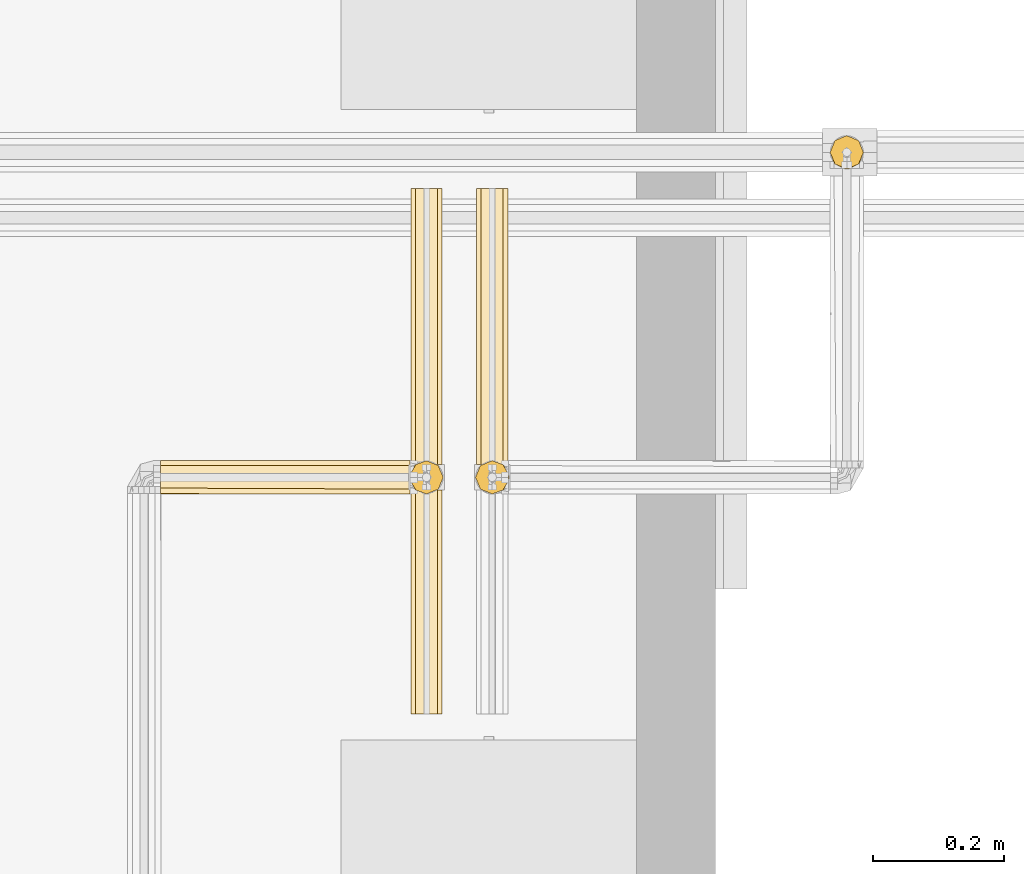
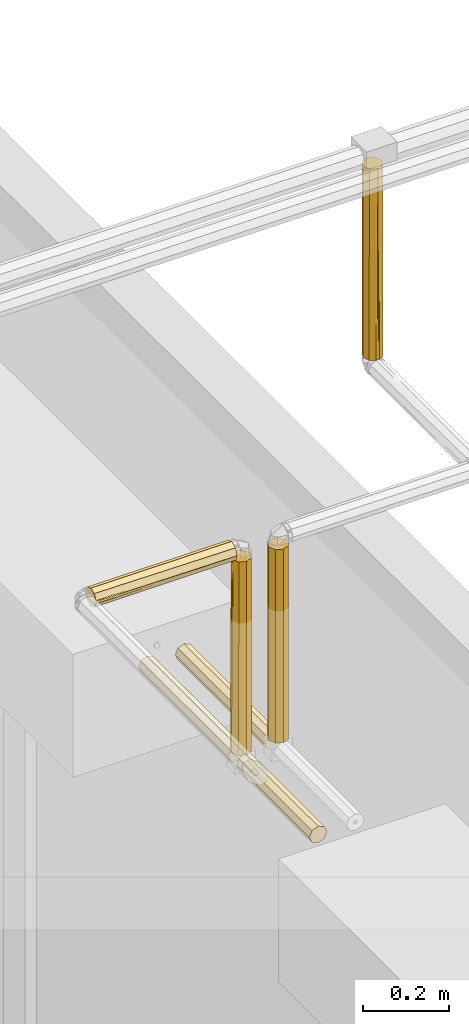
# One storey, part 216 of 652: 7 coverings.
"""IFC2X3 building model written with IfcOpenShell, lengths in millimetres."""

from ifc_helpers import new_model, entity, si_unit, converted_unit, direction, frame, origin, place, context, subcontext, project, spatial, faceted_brep, material, type_object, element, save


model = new_model("IFC2X3")

# Units and contexts
model_context = context("Model", 3, precision=0.01, world=frame((0.0, 0.0, 308426.39999999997)), true_north=direction((6.123233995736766e-17, 1.0)))
plan_context = context("Plan", 3, precision=0.01, world=frame((0.0, 0.0, 308426.39999999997)), true_north=direction((6.123233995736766e-17, 1.0)))
body_context = subcontext(model_context, "Body", "Model", "MODEL_VIEW")
ifc_project = project(units=[si_unit("LENGTHUNIT", "METRE", prefix="MILLI"), si_unit("AREAUNIT", "SQUARE_METRE"), si_unit("VOLUMEUNIT", "CUBIC_METRE"), converted_unit("PLANEANGLEUNIT", "DEGREE", entity("IfcPlaneAngleMeasure", 0.017453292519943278), si_unit("PLANEANGLEUNIT", "RADIAN"), dimensions=[0, 0, 0, 0, 0, 0, 0])], contexts=[model_context, plan_context])

# Site, building, storey
site_placement = place(None, origin())
site = spatial("IfcSite", under=ifc_project, at=site_placement, Name="Default", CompositionType="ELEMENT")
building_placement = place(site_placement, origin())
building = spatial("IfcBuilding", under=site, at=building_placement, CompositionType="ELEMENT")
storey_placement = place(building_placement, frame((0.0, 0.0, 1730.6999999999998)))
storey = spatial("IfcBuildingStorey", under=building, at=storey_placement, Name="EG_Produktion_FFB", CompositionType="ELEMENT", Elevation=1730.6999999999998)

# Coverings
ifc_material = material(Name="Dämmung - Armaflex-Schlauch")
covering_type = type_object("IfcCoveringType", Name="Rohrdämmung außen:Armaflex-Schlauch", PredefinedType="INSULATION")
covering_1_placement = place(storey_placement, frame((50553.37172776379, 67643.05472776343, 3273.0547277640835)))
element("IfcCovering", 1, at=covering_1_placement, inside=storey, type_object=covering_type, material=ifc_material, Name="Rohrdämmung außen:Armaflex-Schlauch", ObjectType="Rohrdämmung außen:Armaflex-Schlauch", PredefinedType="INSULATION", context=body_context, shape_type="Brep", body=[
    faceted_brep([(1.5952722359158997, 10.639444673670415, 46.35512765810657), (1.5952722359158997, 14.715901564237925, 47.840163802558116), (1.5952722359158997, 18.792358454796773, 49.32519994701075), (1.5952722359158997, 22.86881534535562, 50.81023609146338), (1.5952722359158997, 26.94527223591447, 52.29527223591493), (1.5952722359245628, 30.63036043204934, 50.7688587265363), (1.5952722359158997, 35.90785068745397, 48.58285068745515), (1.5952722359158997, 40.38913991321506, 46.726639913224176), (1.5952722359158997, 44.87042913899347, 44.87042913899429), (1.5952722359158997, 46.7266399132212, 40.38913991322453), (1.5952722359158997, 48.582850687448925, 35.90785068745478), (1.5952722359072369, 50.43906146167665, 31.42656146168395), (1.5952722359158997, 52.29527223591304, 26.94527223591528), (1.5952722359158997, 50.43906146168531, 22.46398301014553), (1.5952722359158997, 48.582850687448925, 17.982693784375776), (1.5952722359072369, 46.7266399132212, 13.501404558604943), (1.5952722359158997, 44.87042913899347, 9.020115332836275), (1.5952722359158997, 40.38913991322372, 7.163904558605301), (1.5952722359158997, 35.90785068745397, 5.30769378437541), (1.5952722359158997, 31.42656146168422, 3.4514830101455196), (1.5952722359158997, 26.94527223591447, 1.595272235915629), (1.5952722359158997, 22.86881534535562, 3.080308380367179), (1.5952722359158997, 18.792358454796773, 4.565344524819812), (1.5952722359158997, 14.715901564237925, 6.050380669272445), (1.5952722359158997, 10.639444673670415, 7.5354168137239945), (1.5952722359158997, 6.308858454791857, 15.045383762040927), (1.5952722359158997, 1.9782722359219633, 22.55535071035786), (1.5952722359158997, 1.9782722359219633, 31.335193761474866), (1.5952722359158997, 6.308858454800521, 38.84516070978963), (381.6612722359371, 22.555350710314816, 1.9782722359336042), (381.6612722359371, 31.33519376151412, 1.9782722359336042), (381.6612722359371, 38.845160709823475, 6.308858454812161), (381.6612722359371, 46.35512765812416, 10.639444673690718), (381.6612722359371, 47.95249572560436, 15.024255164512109), (381.6612722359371, 49.549863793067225, 19.4090656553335), (381.6612722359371, 52.29527223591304, 26.94527223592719), (381.6612722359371, 49.242445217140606, 34.31544862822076), (381.66127223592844, 47.05643717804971, 39.59293888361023), (381.6612722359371, 44.87042913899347, 44.8704291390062), (381.6612722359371, 40.38913991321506, 46.72663991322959), (381.6612722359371, 35.90785068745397, 48.58285068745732), (381.6612722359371, 31.42656146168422, 50.43906146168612), (381.6612722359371, 26.94527223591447, 52.295272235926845), (381.6612722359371, 22.463983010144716, 50.43906146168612), (381.6612722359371, 17.982693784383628, 48.58285068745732), (381.6612722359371, 13.501404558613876, 46.72663991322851), (381.6612722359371, 9.020115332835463, 44.8704291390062), (381.6612722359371, 7.1639045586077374, 40.389139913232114), (381.6612722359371, 5.307693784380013, 35.907850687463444), (381.6612722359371, 3.4514830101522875, 31.426561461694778), (381.6612722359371, 1.5952722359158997, 26.94527223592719), (381.6612722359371, 3.0803083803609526, 22.868815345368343), (381.6612722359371, 4.565344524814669, 18.792358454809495), (381.6612722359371, 6.050380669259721, 14.715901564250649), (381.6612722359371, 7.535416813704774, 10.639444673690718), (381.6612722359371, 15.045383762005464, 6.308858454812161), (381.37420375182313, 29.148570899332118, 1.6912037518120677), (381.2782722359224, 26.94527223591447, 1.595272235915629), (381.37420375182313, 24.741973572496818, 1.6912037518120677), (1.9782722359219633, 1.5952722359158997, 26.94527223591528), (1.8823407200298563, 1.691203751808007, 24.741973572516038), (1.8823407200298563, 1.691203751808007, 29.148570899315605)], [[[0, 1, 2, 3, 4, 5, 6, 7, 8, 9, 10, 11, 12, 13, 14, 15, 16, 17, 18, 19, 20, 21, 22, 23, 24, 25, 26, 27, 28]], [[29, 30, 31, 32, 33, 34, 35, 36, 37, 38, 39, 40, 41, 42, 43, 44, 45, 46, 47, 48, 49, 50, 51, 52, 53, 54, 55]], [[34, 33, 14]], [[31, 18, 17, 16]], [[34, 14, 13]], [[13, 12, 35]], [[31, 30, 18]], [[20, 56, 57]], [[35, 34, 13]], [[19, 18, 30]], [[32, 15, 33]], [[31, 16, 32]], [[56, 19, 30]], [[19, 56, 20]], [[15, 32, 16]], [[15, 14, 33]], [[29, 22, 21]], [[58, 21, 20]], [[58, 29, 21]], [[23, 22, 55, 24]], [[24, 55, 54]], [[25, 54, 53, 52]], [[50, 59, 60]], [[26, 52, 51]], [[60, 26, 51]], [[54, 25, 24]], [[55, 22, 29]], [[20, 57, 58]], [[25, 52, 26]], [[60, 51, 50]], [[49, 48, 27]], [[28, 48, 47, 46]], [[1, 44, 2]], [[50, 61, 59]], [[4, 3, 42]], [[2, 43, 3]], [[42, 3, 43]], [[44, 1, 45]], [[45, 1, 0]], [[48, 28, 27]], [[28, 46, 0]], [[61, 49, 27]], [[49, 61, 50]], [[45, 0, 46]], [[43, 2, 44]], [[40, 39, 38, 8, 7, 6, 5, 4, 42, 41]], [[8, 38, 37, 36, 35, 12, 11, 10, 9]], [[27, 26, 60, 59, 61]], [[57, 56, 30, 29, 58]]]),
])
covering_2_placement = place(storey_placement, frame((50934.64222776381, 67309.64924999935, 2674.6422277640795)))
element("IfcCovering", 2, at=covering_2_placement, inside=storey, type_object=covering_type, material=ifc_material, Name="Rohrdämmung außen:Armaflex-Schlauch", ObjectType="Rohrdämmung außen:Armaflex-Schlauch", PredefinedType="INSULATION", context=body_context, shape_type="Brep", body=[
    faceted_brep([(12.755803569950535, 0.0, 6.815178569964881), (16.956459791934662, 0.0, 5.0752097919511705), (21.157116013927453, 0.0, 3.335241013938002), (25.35777223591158, 0.0, 1.5952722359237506), (29.088590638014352, 0.0, 3.1406278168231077), (33.759084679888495, 0.0, 5.0752097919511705), (37.95974090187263, 0.0, 6.815178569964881), (42.160397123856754, 0.0, 8.555147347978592), (43.90036590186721, 0.0, 12.755803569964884), (45.640334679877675, 0.0, 16.956459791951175), (47.3803034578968, 0.0, 21.15711601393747), (49.12027223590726, 0.0, 25.35777223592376), (47.57491665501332, 0.0, 29.088590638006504), (45.640334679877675, 0.0, 33.75908467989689), (43.90036590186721, 0.0, 37.95974090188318), (42.160397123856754, 0.0, 42.16039712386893), (37.95974090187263, 0.0, 43.900365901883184), (33.759084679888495, 0.0, 45.640334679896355), (29.558428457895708, 0.0, 47.38030345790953), (25.35777223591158, 0.0, 49.12027223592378), (21.626953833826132, 0.0, 47.57491665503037), (16.956459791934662, 0.0, 45.640334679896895), (12.755803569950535, 0.0, 43.900365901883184), (8.55514734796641, 0.0, 42.16039712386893), (6.815178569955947, 0.0, 37.95974090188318), (5.075209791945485, 0.0, 33.75908467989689), (3.3352410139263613, 0.0, 29.558428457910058), (1.5952722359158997, 0.0, 25.35777223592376), (3.3352410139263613, 0.0, 21.15711601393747), (5.075209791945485, 0.0, 16.956459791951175), (6.815178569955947, 0.0, 12.755803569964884), (8.55514734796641, 0.0, 8.555147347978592), (1.5952722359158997, 340.701499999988, 25.357772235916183), (4.685983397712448, 340.701499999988, 32.81940904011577), (6.620565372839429, 340.701499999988, 37.489903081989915), (8.55514734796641, 340.701499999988, 42.16039712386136), (12.755803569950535, 340.701499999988, 43.90036590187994), (16.956459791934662, 340.701499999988, 45.64033467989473), (21.157116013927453, 340.701499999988, 47.38030345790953), (25.35777223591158, 340.701499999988, 49.1202722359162), (32.819409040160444, 340.701499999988, 46.02956107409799), (37.489903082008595, 340.701499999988, 44.09497909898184), (42.160397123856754, 340.701499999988, 42.16039712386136), (43.90036590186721, 340.701499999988, 37.959740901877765), (45.640334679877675, 340.701499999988, 33.75908467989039), (47.38030345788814, 340.701499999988, 29.558428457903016), (49.12027223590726, 340.701499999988, 25.357772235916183), (46.029561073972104, 340.701499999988, 17.896135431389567), (44.09497909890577, 340.701499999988, 13.225641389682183), (42.160397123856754, 340.701499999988, 8.55514734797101), (37.95974090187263, 340.701499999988, 6.815178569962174), (33.759084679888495, 340.701499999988, 5.075209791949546), (29.558428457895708, 340.701499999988, 3.3352410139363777), (25.35777223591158, 340.701499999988, 1.5952722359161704), (17.896135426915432, 340.701499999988, 4.685983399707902), (13.22564138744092, 340.701499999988, 6.620565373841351), (8.55514734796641, 340.701499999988, 8.55514734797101), (6.815178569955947, 340.701499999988, 12.755803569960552), (5.075209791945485, 340.701499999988, 16.95645979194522), (3.3352410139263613, 340.701499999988, 21.15711601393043)], [[[0, 1, 2, 3, 4, 5, 6, 7, 8, 9, 10, 11, 12, 13, 14, 15, 16, 17, 18, 19, 20, 21, 22, 23, 24, 25, 26, 27, 28, 29, 30, 31]], [[32, 33, 34, 35, 36, 37, 38, 39, 40, 41, 42, 43, 44, 45, 46, 47, 48, 49, 50, 51, 52, 53, 54, 55, 56, 57, 58, 59]], [[58, 57, 56, 31, 30, 29, 28, 27, 32, 59]], [[54, 53, 3, 2, 1, 0, 31, 56, 55]], [[51, 50, 49, 7, 6, 5, 4, 3, 53, 52]], [[7, 49, 48, 47, 46, 11, 10, 9, 8]], [[44, 43, 42, 15, 14, 13, 12, 11, 46, 45]], [[15, 42, 41, 40, 39, 19, 18, 17, 16]], [[37, 36, 35, 23, 22, 21, 20, 19, 39, 38]], [[23, 35, 34, 33, 32, 27, 26, 25, 24]]]),
])
covering_3_placement = place(storey_placement, frame((51573.05472776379, 68138.05472776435, 3323.371727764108)))
element("IfcCovering", 3, at=covering_3_placement, inside=storey, type_object=covering_type, material=ifc_material, Name="Rohrdämmung außen:Armaflex-Schlauch", ObjectType="Rohrdämmung außen:Armaflex-Schlauch", PredefinedType="INSULATION", context=body_context, shape_type="Brep", body=[
    faceted_brep([(52.29527223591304, 26.94527223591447, 546.6186722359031), (50.16641730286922, 32.0847826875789, 546.6186722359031), (48.582850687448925, 35.90785068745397, 546.6186722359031), (46.7266399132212, 40.38913991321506, 546.6186722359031), (44.87042913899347, 44.87042913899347, 546.6186722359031), (40.38913991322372, 46.7266399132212, 546.6186722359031), (35.90785068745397, 48.582850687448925, 546.6186722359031), (31.42656146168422, 50.43906146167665, 546.6186722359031), (26.94527223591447, 52.29527223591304, 546.6186722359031), (21.805761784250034, 50.16641730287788, 546.6186722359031), (17.982693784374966, 48.582850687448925, 546.6186722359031), (13.501404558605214, 46.7266399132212, 546.6186722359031), (9.020115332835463, 44.87042913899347, 546.6186722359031), (7.163904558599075, 40.38913991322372, 546.6186722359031), (5.30769378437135, 35.90785068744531, 546.6186722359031), (3.4514830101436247, 31.42656146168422, 546.6186722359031), (1.5952722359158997, 26.94527223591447, 546.6186722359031), (3.7241271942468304, 21.805761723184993, 546.6186722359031), (5.307693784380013, 17.982693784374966, 546.6186722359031), (7.1639045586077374, 13.501404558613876, 546.6186722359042), (9.020115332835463, 9.020115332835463, 546.6186722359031), (13.501404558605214, 7.1639045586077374, 546.6186722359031), (17.982693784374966, 5.30769378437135, 546.6186722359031), (22.463983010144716, 3.4514830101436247, 546.6186722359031), (26.94527223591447, 1.5952722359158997, 546.6186722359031), (31.42656146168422, 3.4514830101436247, 546.6186722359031), (35.90785068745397, 5.30769378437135, 546.6186722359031), (40.38913991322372, 7.1639045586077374, 546.6186722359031), (44.87042913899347, 9.020115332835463, 546.6186722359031), (46.7266399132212, 13.501404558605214, 546.6186722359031), (48.582850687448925, 17.982693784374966, 546.6186722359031), (50.43906146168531, 22.463983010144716, 546.6186722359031), (31.335193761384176, 1.9782722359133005, 1.595272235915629), (22.55535071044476, 1.9782722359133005, 1.595272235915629), (15.045383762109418, 6.308858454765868, 1.595272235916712), (7.535416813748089, 10.639444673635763, 1.595272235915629), (5.424232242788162, 16.434692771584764, 1.595272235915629), (3.5097522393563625, 21.689982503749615, 1.595272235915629), (1.5952722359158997, 26.94527223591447, 1.595272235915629), (3.724127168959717, 32.084782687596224, 1.595272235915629), (5.852982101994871, 37.22429313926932, 1.595272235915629), (9.020115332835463, 44.87042913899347, 1.595272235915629), (13.501404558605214, 46.7266399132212, 1.595272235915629), (17.982693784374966, 48.58285068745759, 1.595272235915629), (22.463983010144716, 50.43906146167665, 1.595272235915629), (26.94527223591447, 52.29527223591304, 1.595272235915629), (32.084782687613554, 50.16641730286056, 1.595272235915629), (37.224293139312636, 48.03756236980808, 1.595272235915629), (44.87042913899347, 44.87042913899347, 1.595272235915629), (46.72663991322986, 40.38913991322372, 1.595272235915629), (48.582850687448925, 35.90785068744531, 1.5952722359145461), (50.43906146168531, 31.42656146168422, 1.595272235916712), (52.29527223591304, 26.94527223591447, 1.595272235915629), (50.38079224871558, 21.689982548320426, 1.595272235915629), (49.32519994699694, 18.792358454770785, 1.595272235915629), (47.8401638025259, 14.71590156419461, 1.5952722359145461), (46.355127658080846, 10.639444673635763, 1.595272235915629), (38.845160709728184, 6.308858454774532, 1.595272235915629), (24.74197357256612, 1.691203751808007, 1.8823407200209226), (26.94527223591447, 1.5952722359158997, 1.978272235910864), (29.148570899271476, 1.691203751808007, 1.8823407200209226)], [[[0, 1, 2, 3, 4, 5, 6, 7, 8, 9, 10, 11, 12, 13, 14, 15, 16, 17, 18, 19, 20, 21, 22, 23, 24, 25, 26, 27, 28, 29, 30, 31]], [[32, 33, 34, 35, 36, 37, 38, 39, 40, 41, 42, 43, 44, 45, 46, 47, 48, 49, 50, 51, 52, 53, 54, 55, 56, 57]], [[19, 18, 36]], [[36, 18, 37]], [[37, 18, 17, 16]], [[58, 23, 33]], [[34, 33, 22]], [[36, 35, 19]], [[24, 58, 59]], [[34, 22, 21, 20]], [[23, 22, 33]], [[35, 20, 19]], [[34, 20, 35]], [[37, 16, 38]], [[23, 58, 24]], [[32, 26, 25]], [[55, 54, 30]], [[25, 60, 32]], [[26, 32, 57]], [[55, 30, 29]], [[52, 0, 31]], [[54, 31, 30]], [[29, 56, 55]], [[57, 28, 27, 26]], [[31, 54, 53, 52]], [[60, 24, 59]], [[28, 57, 56]], [[28, 56, 29]], [[24, 60, 25]], [[45, 8, 7, 6, 5, 4, 48, 47, 46]], [[3, 2, 1, 0, 52, 51, 50, 49, 48, 4]], [[38, 16, 15, 14, 13, 12, 41, 40, 39]], [[11, 10, 9, 8, 45, 44, 43, 42, 41, 12]], [[58, 33, 32, 60, 59]]]),
])
covering_4_placement = place(storey_placement, frame((50934.64222776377, 67689.64924999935, 2725.357772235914)))
element("IfcCovering", 4, at=covering_4_placement, inside=storey, type_object=covering_type, material=ifc_material, Name="Rohrdämmung außen:Armaflex-Schlauch", ObjectType="Rohrdämmung außen:Armaflex-Schlauch", PredefinedType="INSULATION", context=body_context, shape_type="Brep", body=[
    faceted_brep([(12.75580356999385, 0.0, -43.900365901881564), (16.956459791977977, 0.0, -45.640334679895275), (21.157116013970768, 0.0, -47.38030345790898), (25.357772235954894, 0.0, -49.12027223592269), (28.384189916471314, 0.0, -47.866688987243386), (33.75908467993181, 0.0, -45.640334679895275), (37.95974090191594, 0.0, -43.900365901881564), (42.16039712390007, 0.0, -42.16039712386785), (43.900365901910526, 0.0, -37.95974090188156), (45.64033467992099, 0.0, -33.75908467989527), (47.380303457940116, 0.0, -29.558428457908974), (49.12027223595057, 0.0, -25.35777223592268), (47.86668898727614, 0.0, -22.331354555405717), (45.64033467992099, 0.0, -16.956459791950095), (43.900365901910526, 0.0, -12.7558035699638), (42.16039712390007, 0.0, -8.555147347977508), (37.95974090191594, 0.0, -6.8151785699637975), (33.75908467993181, 0.0, -5.075209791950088), (29.558428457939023, 0.0, -3.335241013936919), (25.357772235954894, 0.0, -1.5952722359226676), (22.331354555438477, 0.0, -2.848855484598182), (16.956459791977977, 0.0, -5.075209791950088), (12.75580356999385, 0.0, -6.8151785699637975), (8.555147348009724, 0.0, -8.555147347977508), (6.8151785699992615, 0.0, -12.7558035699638), (5.0752097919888, 0.0, -16.956459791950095), (3.335241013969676, 0.0, -21.15711601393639), (1.5952722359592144, 0.0, -25.35777223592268), (3.335241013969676, 0.0, -29.558428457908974), (5.0752097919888, 0.0, -33.75908467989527), (6.8151785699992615, 0.0, -37.95974090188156), (8.555147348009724, 0.0, -42.16039712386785), (1.5952722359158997, 420.0, -25.357772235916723), (4.10243873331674, 420.0, -19.3049368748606), (6.328793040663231, 420.0, -13.930042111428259), (8.55514734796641, 420.0, -8.555147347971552), (12.755803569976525, 420.0, -6.815178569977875), (16.95645979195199, 420.0, -5.075209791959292), (21.157116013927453, 420.0, -3.3352410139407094), (25.35777223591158, 420.0, -1.595272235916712), (31.41060759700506, 420.0, -4.102438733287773), (36.78550236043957, 420.0, -6.328793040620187), (42.160397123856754, 420.0, -8.555147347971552), (43.9003659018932, 420.0, -12.755803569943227), (45.64033467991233, 420.0, -16.956459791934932), (47.380303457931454, 420.0, -21.15711601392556), (49.12027223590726, 420.0, -25.357772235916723), (46.61310573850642, 420.0, -31.410607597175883), (44.38675143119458, 420.0, -36.78550236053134), (42.160397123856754, 420.0, -42.1603971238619), (37.95974090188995, 420.0, -43.90036590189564), (33.759084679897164, 420.0, -45.64033467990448), (29.55842845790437, 420.0, -47.380303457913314), (25.35777223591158, 420.0, -49.12027223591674), (19.304936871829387, 420.0, -46.613105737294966), (13.93004210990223, 420.0, -44.38675143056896), (8.55514734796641, 420.0, -42.1603971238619), (6.815178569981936, 420.0, -37.95974090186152), (5.075209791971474, 420.0, -33.759084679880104), (3.335241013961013, 420.0, -29.558428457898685)], [[[0, 1, 2, 3, 4, 5, 6, 7, 8, 9, 10, 11, 12, 13, 14, 15, 16, 17, 18, 19, 20, 21, 22, 23, 24, 25, 26, 27, 28, 29, 30, 31]], [[32, 33, 34, 35, 36, 37, 38, 39, 40, 41, 42, 43, 44, 45, 46, 47, 48, 49, 50, 51, 52, 53, 54, 55, 56, 57, 58, 59]], [[58, 57, 56, 31, 30, 29, 28, 27, 32, 59]], [[54, 53, 3, 2, 1, 0, 31, 56, 55]], [[51, 50, 49, 7, 6, 5, 4, 3, 53, 52]], [[7, 49, 48, 47, 46, 11, 10, 9, 8]], [[44, 43, 42, 15, 14, 13, 12, 11, 46, 45]], [[15, 42, 41, 40, 39, 19, 18, 17, 16]], [[37, 36, 35, 23, 22, 21, 20, 19, 39, 38]], [[23, 35, 34, 33, 32, 27, 26, 25, 24]]]),
])
covering_5_placement = place(storey_placement, frame((50933.0547277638, 67643.05472776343, 2723.9990000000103)))
element("IfcCovering", 5, at=covering_5_placement, inside=storey, type_object=covering_type, material=ifc_material, Name="Rohrdämmung außen:Armaflex-Schlauch", ObjectType="Rohrdämmung außen:Armaflex-Schlauch", PredefinedType="INSULATION", context=body_context, shape_type="Brep", body=[
    faceted_brep([(1.5952722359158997, 26.94527223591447, 0.0), (3.4514830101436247, 31.42656146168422, 0.0), (5.30769378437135, 35.90785068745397, 0.0), (7.1639045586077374, 40.38913991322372, 0.0), (9.020115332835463, 44.87042913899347, 0.0), (13.501404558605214, 46.7266399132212, 0.0), (17.982693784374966, 48.582850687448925, 0.0), (22.46398301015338, 50.43906146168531, 0.0), (26.94527223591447, 52.29527223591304, 0.0), (32.02872164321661, 50.18963854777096, 0.0), (35.90785068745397, 48.582850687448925, 0.0), (40.38913991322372, 46.7266399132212, 0.0), (44.87042913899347, 44.87042913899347, 0.0), (46.7266399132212, 40.38913991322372, 0.0), (48.58285068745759, 35.90785068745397, 0.0), (50.43906146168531, 31.42656146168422, 0.0), (52.29527223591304, 26.94527223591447, 0.0), (50.18963854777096, 21.861822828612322, 0.0), (48.58285068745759, 17.982693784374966, 0.0), (46.7266399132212, 13.501404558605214, 0.0), (44.87042913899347, 9.020115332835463, 0.0), (40.38913991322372, 7.1639045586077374, 0.0), (35.90785068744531, 5.30769378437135, 0.0), (31.42656146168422, 3.4514830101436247, 0.0), (26.94527223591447, 1.5952722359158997, 0.0), (21.861822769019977, 3.7009059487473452, 0.0), (17.982693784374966, 5.307693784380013, 0.0), (13.501404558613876, 7.1639045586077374, 0.0), (9.020115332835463, 9.020115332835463, 0.0), (7.1639045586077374, 13.501404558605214, 0.0), (5.30769378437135, 17.982693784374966, 0.0), (3.4514830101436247, 22.463983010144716, 0.0), (1.9782722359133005, 31.335193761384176, 551.0339999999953), (1.9782722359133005, 22.55535071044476, 551.0339999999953), (6.308858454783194, 15.045383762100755, 551.0339999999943), (10.639444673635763, 7.535416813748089, 551.0339999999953), (16.549340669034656, 5.382466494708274, 551.0339999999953), (21.74730645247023, 3.4888693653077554, 551.0339999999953), (26.94527223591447, 1.5952722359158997, 551.0339999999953), (32.02872164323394, 3.7009059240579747, 551.0339999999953), (37.11217105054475, 5.806539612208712, 551.0339999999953), (44.87042913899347, 9.020115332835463, 551.0339999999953), (46.7266399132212, 13.501404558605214, 551.0339999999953), (48.58285068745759, 17.982693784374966, 551.0339999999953), (50.43906146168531, 22.46398301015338, 551.0339999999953), (52.29527223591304, 26.94527223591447, 551.0339999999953), (50.1896385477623, 32.02872164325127, 551.0339999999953), (48.0840048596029, 37.11217105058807, 551.0339999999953), (44.87042913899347, 44.87042913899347, 551.0339999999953), (40.38913991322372, 46.7266399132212, 551.0339999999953), (35.90785068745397, 48.582850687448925, 551.0339999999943), (31.426561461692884, 50.43906146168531, 551.0339999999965), (26.94527223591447, 52.29527223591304, 551.0339999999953), (21.747306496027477, 50.40167512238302, 551.0339999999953), (18.792358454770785, 49.32519994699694, 551.0339999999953), (14.715901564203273, 47.8401638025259, 551.0339999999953), (10.639444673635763, 46.355127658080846, 551.0339999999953), (6.308858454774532, 38.845160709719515, 551.0339999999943), (1.691203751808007, 24.74197357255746, 550.7469315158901), (1.5952722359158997, 26.94527223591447, 550.6510000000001), (1.691203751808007, 29.148570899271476, 550.7469315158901)], [[[0, 1, 2, 3, 4, 5, 6, 7, 8, 9, 10, 11, 12, 13, 14, 15, 16, 17, 18, 19, 20, 21, 22, 23, 24, 25, 26, 27, 28, 29, 30, 31]], [[32, 33, 34, 35, 36, 37, 38, 39, 40, 41, 42, 43, 44, 45, 46, 47, 48, 49, 50, 51, 52, 53, 54, 55, 56, 57]], [[27, 26, 36]], [[36, 26, 37]], [[37, 26, 25, 24]], [[58, 31, 33]], [[34, 33, 30]], [[36, 35, 27]], [[0, 58, 59]], [[34, 30, 29, 28]], [[31, 30, 33]], [[35, 28, 27]], [[34, 28, 35]], [[37, 24, 38]], [[31, 58, 0]], [[32, 2, 1]], [[55, 54, 6]], [[1, 60, 32]], [[2, 32, 57]], [[55, 6, 5]], [[52, 8, 7]], [[54, 7, 6]], [[5, 56, 55]], [[57, 4, 3, 2]], [[7, 54, 53, 52]], [[60, 0, 59]], [[4, 57, 56]], [[4, 56, 5]], [[0, 60, 1]], [[45, 16, 15, 14, 13, 12, 48, 47, 46]], [[11, 10, 9, 8, 52, 51, 50, 49, 48, 12]], [[38, 24, 23, 22, 21, 20, 41, 40, 39]], [[19, 18, 17, 16, 45, 44, 43, 42, 41, 20]], [[59, 58, 33, 32, 60]]]),
])
covering_6_placement = place(storey_placement, frame((51034.64222776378, 67689.64924999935, 2725.357772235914)))
element("IfcCovering", 6, at=covering_6_placement, inside=storey, type_object=covering_type, material=ifc_material, Name="Rohrdämmung außen:Armaflex-Schlauch", ObjectType="Rohrdämmung außen:Armaflex-Schlauch", PredefinedType="INSULATION", context=body_context, shape_type="Brep", body=[
    faceted_brep([(12.755803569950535, 0.0, -43.900365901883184), (16.956459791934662, 0.0, -45.640334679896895), (21.157116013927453, 0.0, -47.38030345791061), (25.35777223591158, 0.0, -49.12027223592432), (28.384189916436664, 0.0, -47.86668898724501), (33.759084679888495, 0.0, -45.640334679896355), (37.95974090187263, 0.0, -43.900365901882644), (42.160397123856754, 0.0, -42.16039712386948), (43.90036590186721, 0.0, -37.95974090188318), (45.640334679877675, 0.0, -33.75908467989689), (47.3803034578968, 0.0, -29.558428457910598), (49.12027223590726, 0.0, -25.357772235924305), (47.86668898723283, 0.0, -22.331354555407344), (45.640334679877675, 0.0, -16.95645979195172), (43.90036590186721, 0.0, -12.755803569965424), (42.160397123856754, 0.0, -8.555147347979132), (37.95974090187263, 0.0, -6.815178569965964), (33.759084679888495, 0.0, -5.075209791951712), (29.558428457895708, 0.0, -3.3352410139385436), (25.35777223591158, 0.0, -1.595272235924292), (22.331354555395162, 0.0, -2.848855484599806), (16.956459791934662, 0.0, -5.0752097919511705), (12.755803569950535, 0.0, -6.815178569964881), (8.55514734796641, 0.0, -8.555147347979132), (6.815178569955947, 0.0, -12.755803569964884), (5.075209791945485, 0.0, -16.956459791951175), (3.3352410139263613, 0.0, -21.15711601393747), (1.5952722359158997, 0.0, -25.357772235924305), (3.3352410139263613, 0.0, -29.558428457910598), (5.075209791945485, 0.0, -33.75908467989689), (6.815178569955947, 0.0, -37.95974090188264), (8.55514734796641, 0.0, -42.16039712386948), (1.5952722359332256, 420.0, -25.35777223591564), (4.102438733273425, 420.0, -19.30493687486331), (6.32879304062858, 420.0, -13.930042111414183), (8.555147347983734, 420.0, -8.55514734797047), (12.755803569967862, 420.0, -6.815178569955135), (16.95645979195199, 420.0, -5.0752097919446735), (21.15711601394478, 420.0, -3.3352410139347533), (25.357772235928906, 420.0, -1.595272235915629), (31.410607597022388, 420.0, -4.102438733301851), (36.785502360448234, 420.0, -6.328793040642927), (42.16039712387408, 420.0, -8.55514734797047), (43.90036590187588, 420.0, -12.75580356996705), (45.64033467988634, 420.0, -16.956459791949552), (47.3803034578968, 420.0, -21.157116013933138), (49.12027223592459, 420.0, -25.35777223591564), (46.613105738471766, 420.0, -31.41060759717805), (44.38675143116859, 420.0, -36.7855023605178), (42.16039712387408, 420.0, -42.16039712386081), (37.95974090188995, 420.0, -43.90036590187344), (33.759084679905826, 420.0, -45.6403346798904), (29.558428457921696, 420.0, -47.38030345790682), (25.357772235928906, 420.0, -49.12027223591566), (19.30493687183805, 420.0, -46.61310573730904), (13.93004210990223, 420.0, -44.386751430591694), (8.555147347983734, 420.0, -42.16039712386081), (6.815178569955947, 420.0, -37.95974090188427), (5.075209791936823, 420.0, -33.75908467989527), (3.3352410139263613, 420.0, -29.558428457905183)], [[[0, 1, 2, 3, 4, 5, 6, 7, 8, 9, 10, 11, 12, 13, 14, 15, 16, 17, 18, 19, 20, 21, 22, 23, 24, 25, 26, 27, 28, 29, 30, 31]], [[32, 33, 34, 35, 36, 37, 38, 39, 40, 41, 42, 43, 44, 45, 46, 47, 48, 49, 50, 51, 52, 53, 54, 55, 56, 57, 58, 59]], [[58, 57, 56, 31, 30, 29, 28, 27, 32, 59]], [[54, 53, 3, 2, 1, 0, 31, 56, 55]], [[51, 50, 49, 7, 6, 5, 4, 3, 53, 52]], [[7, 49, 48, 47, 46, 11, 10, 9, 8]], [[44, 43, 42, 15, 14, 13, 12, 11, 46, 45]], [[15, 42, 41, 40, 39, 19, 18, 17, 16]], [[37, 36, 35, 23, 22, 21, 20, 19, 39, 38]], [[23, 35, 34, 33, 32, 27, 26, 25, 24]]]),
])
covering_7_placement = place(storey_placement, frame((51033.05472776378, 67643.05472776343, 2723.99900000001)))
element("IfcCovering", 7, at=covering_7_placement, inside=storey, type_object=covering_type, material=ifc_material, Name="Rohrdämmung außen:Armaflex-Schlauch", ObjectType="Rohrdämmung außen:Armaflex-Schlauch", PredefinedType="INSULATION", context=body_context, shape_type="Brep", body=[
    faceted_brep([(1.5952722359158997, 26.94527223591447, 0.0), (3.700905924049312, 32.02872164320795, 0.0), (5.30769378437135, 35.90785068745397, 0.0), (7.1639045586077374, 40.38913991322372, 0.0), (9.020115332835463, 44.87042913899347, 0.0), (13.501404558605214, 46.7266399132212, 0.0), (17.982693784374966, 48.582850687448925, 0.0), (22.463983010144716, 50.43906146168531, 0.0), (26.94527223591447, 52.29527223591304, 0.0), (32.0287217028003, 50.18963852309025, 0.0), (35.90785068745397, 48.582850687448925, 0.0), (40.38913991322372, 46.7266399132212, 0.0), (44.87042913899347, 44.87042913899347, 0.0), (46.7266399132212, 40.38913991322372, 0.0), (48.58285068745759, 35.90785068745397, 0.0), (50.43906146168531, 31.42656146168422, 0.0), (52.29527223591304, 26.94527223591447, 0.0), (50.43906146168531, 22.463983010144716, 0.0), (48.58285068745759, 17.982693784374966, 0.0), (46.72663991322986, 13.501404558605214, 0.0), (44.87042913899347, 9.020115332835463, 0.0), (40.38913991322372, 7.1639045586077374, 0.0), (35.90785068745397, 5.307693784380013, 0.0), (31.42656146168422, 3.4514830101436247, 0.0), (26.94527223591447, 1.5952722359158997, 0.0), (21.861822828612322, 3.7009059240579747, 0.0), (17.982693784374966, 5.307693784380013, 0.0), (13.501404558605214, 7.163904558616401, 0.0), (9.020115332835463, 9.020115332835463, 0.0), (7.1639045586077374, 13.501404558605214, 0.0), (5.30769378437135, 17.982693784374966, 0.0), (3.4514830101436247, 22.463983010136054, 0.0), (13.501404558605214, 7.1639045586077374, 551.0339999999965), (17.982693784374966, 5.307693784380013, 551.0339999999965), (22.463983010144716, 3.4514830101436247, 551.0339999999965), (26.94527223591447, 1.5952722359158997, 551.0339999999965), (32.14323797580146, 3.4888693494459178, 551.0339999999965), (35.098186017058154, 4.565344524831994, 551.0339999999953), (39.174642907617, 6.0503806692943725, 551.0339999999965), (43.251099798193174, 7.535416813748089, 551.0339999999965), (47.5816860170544, 15.045383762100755, 551.0339999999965), (51.91227223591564, 22.55535071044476, 551.0339999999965), (51.91227223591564, 31.335193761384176, 551.0339999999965), (47.58168601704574, 38.845160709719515, 551.0339999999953), (43.251099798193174, 46.355127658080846, 551.0339999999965), (37.34120380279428, 48.508077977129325, 551.0339999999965), (32.143238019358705, 50.40167510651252, 551.0339999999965), (26.94527223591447, 52.29527223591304, 551.0339999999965), (21.86182282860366, 50.1896385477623, 551.0339999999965), (16.778373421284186, 48.08400485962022, 551.0339999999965), (9.020115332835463, 44.87042913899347, 551.0339999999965), (7.1639045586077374, 40.38913991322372, 551.0339999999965), (5.30769378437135, 35.90785068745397, 551.0339999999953), (3.4514830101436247, 31.42656146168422, 551.0339999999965), (1.5952722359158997, 26.94527223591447, 551.0339999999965), (3.7009059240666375, 21.861822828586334, 551.0339999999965), (5.806539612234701, 16.77837342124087, 551.0339999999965), (9.020115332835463, 9.020115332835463, 551.0339999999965), (52.19934072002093, 29.148570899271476, 550.7469315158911), (52.29527223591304, 26.94527223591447, 550.6510000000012), (52.19934072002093, 24.74197357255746, 550.7469315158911)], [[[0, 1, 2, 3, 4, 5, 6, 7, 8, 9, 10, 11, 12, 13, 14, 15, 16, 17, 18, 19, 20, 21, 22, 23, 24, 25, 26, 27, 28, 29, 30, 31]], [[32, 33, 34, 35, 36, 37, 38, 39, 40, 41, 42, 43, 44, 45, 46, 47, 48, 49, 50, 51, 52, 53, 54, 55, 56, 57]], [[11, 10, 45]], [[45, 10, 46]], [[46, 10, 9, 8]], [[58, 15, 42]], [[43, 42, 14]], [[45, 44, 11]], [[16, 58, 59]], [[43, 14, 13, 12]], [[15, 14, 42]], [[44, 12, 11]], [[43, 12, 44]], [[46, 8, 47]], [[15, 58, 16]], [[41, 18, 17]], [[38, 37, 22]], [[17, 60, 41]], [[18, 41, 40]], [[38, 22, 21]], [[35, 24, 23]], [[37, 23, 22]], [[21, 39, 38]], [[40, 20, 19, 18]], [[23, 37, 36, 35]], [[60, 16, 59]], [[20, 40, 39]], [[20, 39, 21]], [[16, 60, 17]], [[54, 0, 31, 30, 29, 28, 57, 56, 55]], [[27, 26, 25, 24, 35, 34, 33, 32, 57, 28]], [[47, 8, 7, 6, 5, 4, 50, 49, 48]], [[3, 2, 1, 0, 54, 53, 52, 51, 50, 4]], [[42, 41, 60, 59, 58]]]),
])

save(model, "model.ifc")
